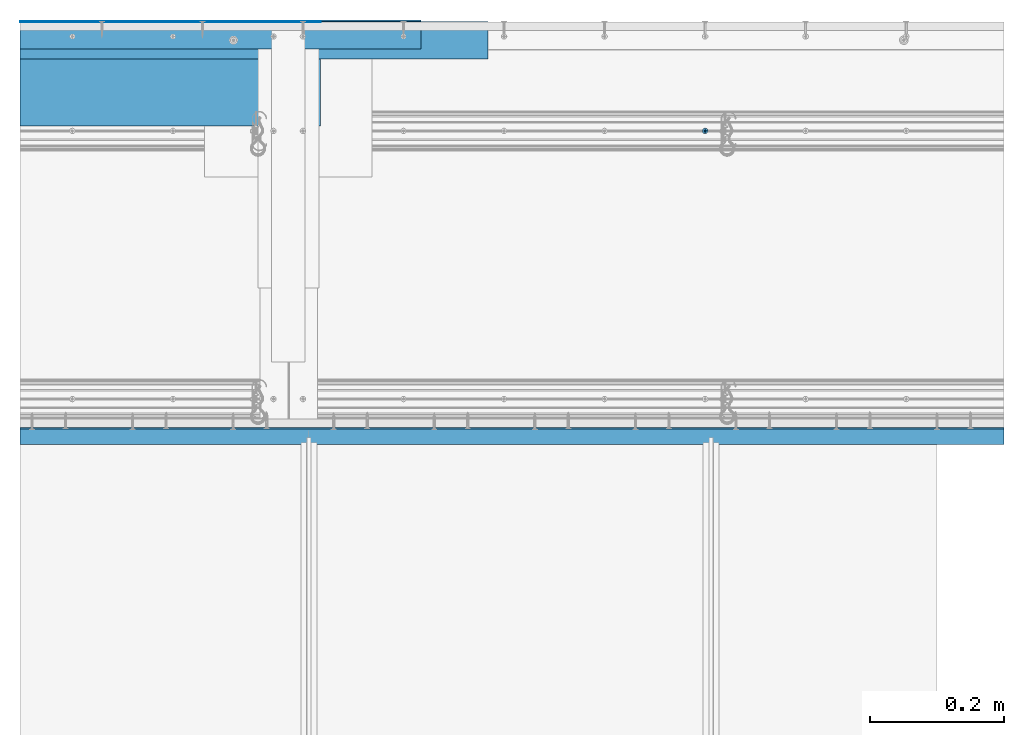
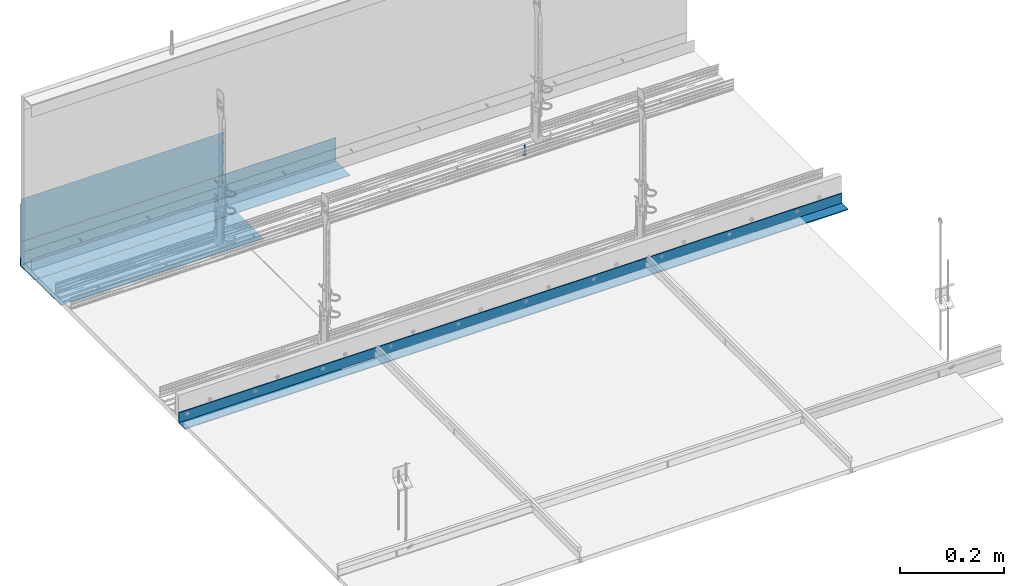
# One storey, part 78 of 79: 5 walls, 1 slab.
"""IFC2X3 building model written with IfcOpenShell, lengths in millimetres."""

from ifc_helpers import new_model, entity, si_unit, converted_unit, direction, frame, origin, origin_with_axes, place, context, project, spatial, faceted_brep, element, save


model = new_model("IFC2X3")

# Units and contexts
model_context = context("Model", 3, precision=1e-05, world=origin(), true_north=direction((0.0, 1.0, 0.0)))
ifc_project = project(units=[si_unit("LENGTHUNIT", "METRE", prefix="MILLI"), si_unit("AREAUNIT", "SQUARE_METRE"), si_unit("VOLUMEUNIT", "CUBIC_METRE"), converted_unit("PLANEANGLEUNIT", "DEGREE", entity("IfcPlaneAngleMeasure", 0.01745), si_unit("PLANEANGLEUNIT", "RADIAN"), dimensions=[0, 0, 0, 0, 0, 0, 0]), si_unit("SOLIDANGLEUNIT", "STERADIAN"), si_unit("MASSUNIT", "GRAM"), si_unit("TIMEUNIT", "SECOND"), si_unit("THERMODYNAMICTEMPERATUREUNIT", "DEGREE_CELSIUS"), si_unit("LUMINOUSINTENSITYUNIT", "LUMEN")], contexts=[model_context])

# Site, building, storey
site_placement = place(None, origin_with_axes())
site = spatial("IfcSite", under=ifc_project, at=site_placement, Name="Default Site", CompositionType="ELEMENT")
building_placement = place(site_placement, origin_with_axes())
building = spatial("IfcBuilding", under=site, at=building_placement, Name="Default Building", CompositionType="ELEMENT")
storey_placement = place(building_placement, origin_with_axes())
storey = spatial("IfcBuildingStorey", under=building, at=storey_placement, Name="Default Building Storey", CompositionType="ELEMENT", Elevation=0.0)

# Slab
slab_placement = place(storey_placement, frame((3284.616074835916, 1516.116634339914, 4371.30616226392), z_axis=(0.0, 1.0, 2.220446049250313e-16), x_axis=(1.0, -1.802054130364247e-31, 8.115730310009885e-16)))
element("IfcSlab", 1, at=slab_placement, inside=storey, Name="Wkręt RIGIPS TN 25", context=model_context, shape_type="Brep", body=[
    faceted_brep([(-136.5890362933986, 3387.475459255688, 554.9298199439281), (-136.4636235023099, 3387.475459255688, 555.0766594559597), (-136.4636235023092, 3370.55807436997, 555.0766594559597), (-136.5890362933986, 3370.55807436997, 554.9298199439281), (-136.9005263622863, 3387.475459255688, 554.7035091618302), (-136.9005263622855, 3370.55807436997, 554.7035091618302), (-137.0789337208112, 3370.55807436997, 554.6296104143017), (-137.078933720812, 3387.475459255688, 554.6296104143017), (-137.2667048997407, 3387.475459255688, 554.5845305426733), (-137.2667048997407, 3370.55807436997, 554.5845305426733), (-137.4592163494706, 3370.55807436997, 554.5693795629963), (-137.4592163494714, 3387.475459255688, 554.5693795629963), (-136.4636235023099, 3387.475459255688, 556.5233405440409), (-136.5890362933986, 3387.475459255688, 556.6701800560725), (-136.5890362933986, 3370.55807436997, 556.6701800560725), (-136.4636235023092, 3370.55807436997, 556.5233405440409), (-138.4548091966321, 3370.55807436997, 556.5233405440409), (-138.3293964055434, 3370.55807436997, 556.6701800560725), (-138.3293964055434, 3387.475459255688, 556.6701800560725), (-138.4548091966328, 3387.475459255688, 556.5233405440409), (-136.7358758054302, 3370.55807436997, 554.8044071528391), (-136.7358758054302, 3387.475459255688, 554.8044071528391), (-138.1825568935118, 3387.475459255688, 556.7955928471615), (-138.1825568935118, 3370.55807436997, 556.7955928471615), (-138.0179063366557, 3370.55807436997, 556.8964908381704), (-138.0179063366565, 3387.475459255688, 556.8964908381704), (-136.3627255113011, 3387.475459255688, 556.3586899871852), (-136.3627255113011, 3370.55807436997, 556.3586899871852), (-136.7358758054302, 3387.475459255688, 556.7955928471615), (-136.7358758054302, 3370.55807436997, 556.7955928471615), (-137.6517277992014, 3387.475459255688, 554.5845305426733), (-137.6517277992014, 3370.55807436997, 554.5845305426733), (-137.83949897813, 3370.55807436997, 554.6296104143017), (-137.8394989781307, 3387.475459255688, 554.6296104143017), (-136.3627255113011, 3387.475459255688, 555.241310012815), (-136.3627255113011, 3370.55807436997, 555.241310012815), (-138.0179063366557, 3370.55807436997, 554.7035091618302), (-138.0179063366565, 3387.475459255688, 554.7035091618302), (-138.6746858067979, 3370.55807436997, 555.6074885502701), (-138.6898367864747, 3370.55807436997, 555.8000000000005), (-138.6898367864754, 3387.475459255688, 555.8000000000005), (-138.6746858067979, 3387.475459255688, 555.6074885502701), (-136.2285959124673, 3387.475459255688, 555.8000000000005), (-136.2437468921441, 3387.475459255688, 555.9925114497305), (-136.2437468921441, 3370.55807436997, 555.9925114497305), (-136.2285959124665, 3370.55807436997, 555.8000000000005), (-138.3293964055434, 3370.55807436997, 554.9298199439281), (-138.4548091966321, 3370.55807436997, 555.0766594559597), (-138.4548091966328, 3387.475459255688, 555.0766594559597), (-138.3293964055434, 3387.475459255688, 554.9298199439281), (-137.83949897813, 3370.55807436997, 556.9703895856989), (-137.8394989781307, 3387.475459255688, 556.9703895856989), (-138.1825568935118, 3370.55807436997, 554.8044071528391), (-138.1825568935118, 3387.475459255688, 554.8044071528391), (-138.5557071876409, 3370.55807436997, 555.241310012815), (-138.6296059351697, 3370.55807436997, 555.4197173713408), (-138.6296059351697, 3387.475459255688, 555.4197173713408), (-138.5557071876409, 3387.475459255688, 555.241310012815), (-136.2888267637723, 3387.475459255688, 555.4197173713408), (-136.2437468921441, 3387.475459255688, 555.6074885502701), (-136.2437468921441, 3370.55807436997, 555.6074885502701), (-136.2888267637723, 3370.55807436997, 555.4197173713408), (-136.2888267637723, 3387.475459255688, 556.1802826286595), (-136.2888267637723, 3370.55807436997, 556.1802826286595), (-137.4592163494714, 3387.475459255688, 557.0306204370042), (-137.4592163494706, 3370.55807436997, 557.0306204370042), (-137.2667048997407, 3370.55807436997, 557.0154694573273), (-137.2667048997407, 3387.475459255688, 557.0154694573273), (-137.0789337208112, 3370.55807436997, 556.9703895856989), (-137.078933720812, 3387.475459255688, 556.9703895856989), (-137.6517277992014, 3387.475459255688, 557.0154694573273), (-137.6517277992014, 3370.55807436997, 557.0154694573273), (-136.9005263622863, 3387.475459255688, 556.8964908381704), (-136.9005263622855, 3370.55807436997, 556.8964908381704), (-138.6296059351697, 3370.55807436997, 556.1802826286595), (-138.5557071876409, 3370.55807436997, 556.3586899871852), (-138.5557071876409, 3387.475459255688, 556.3586899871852), (-138.6296059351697, 3387.475459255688, 556.1802826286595), (-138.6746858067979, 3370.55807436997, 555.9925114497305), (-138.6746858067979, 3387.475459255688, 555.9925114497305), (-141.5377463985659, 3390.556721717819, 555.8000000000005), (-141.5377463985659, 3391.020944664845, 555.8000000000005), (-141.4875329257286, 3391.020944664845, 555.1619773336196), (-141.4875329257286, 3390.556721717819, 555.1619773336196), (-141.338128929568, 3391.020944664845, 554.539664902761), (-141.338128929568, 3390.556721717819, 554.539664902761), (-141.0932132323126, 3391.020944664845, 553.948386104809), (-141.0932132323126, 3390.556721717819, 553.948386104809), (-140.7588164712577, 3391.020944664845, 553.4027001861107), (-140.7588164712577, 3390.556721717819, 553.4027001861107), (-140.3431726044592, 3391.020944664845, 552.9160437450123), (-140.4541727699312, 3390.556721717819, 553.0314907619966), (-140.1080097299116, 3390.556721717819, 552.6986614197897), (-139.8565161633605, 3391.020944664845, 552.5003998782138), (-139.7251262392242, 3390.556721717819, 552.4088262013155), (-139.3108302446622, 3391.020944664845, 552.1660031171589), (-139.3108302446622, 3390.556721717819, 552.1660031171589), (-138.8708651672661, 3390.556721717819, 551.9735584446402), (-138.7195514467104, 3391.020944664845, 551.9210874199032), (-138.4113302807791, 3390.556721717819, 551.8341600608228), (-137.9385961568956, 3390.556721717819, 551.7497404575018), (-138.0972390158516, 3391.020944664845, 551.7716834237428), (-137.4592163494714, 3391.020944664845, 551.7214699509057), (-137.4592163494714, 3390.556721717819, 551.7214699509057), (-136.8211936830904, 3391.020944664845, 551.7716834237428), (-136.8211936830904, 3390.556721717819, 551.7716834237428), (-136.1988812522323, 3391.020944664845, 551.9210874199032), (-136.1988812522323, 3390.556721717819, 551.9210874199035), (-135.6076024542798, 3391.020944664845, 552.1660031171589), (-135.6076024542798, 3390.556721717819, 552.1660031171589), (-135.0619165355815, 3391.020944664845, 552.5003998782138), (-135.0619165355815, 3390.556721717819, 552.5003998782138), (-134.5752600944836, 3391.020944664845, 552.9160437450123), (-134.5752600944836, 3390.556721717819, 552.9160437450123), (-134.1596162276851, 3391.020944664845, 553.4027001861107), (-134.1596162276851, 3390.556721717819, 553.4027001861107), (-133.8252194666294, 3391.020944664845, 553.948386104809), (-133.8252194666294, 3390.556721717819, 553.948386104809), (-133.580303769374, 3391.020944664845, 554.539664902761), (-133.580303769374, 3390.556721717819, 554.539664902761), (-133.4308997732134, 3391.020944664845, 556.438022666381), (-133.4308997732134, 3390.556721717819, 556.438022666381), (-133.3806863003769, 3390.556721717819, 555.8000000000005), (-133.3806863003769, 3391.020944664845, 555.8000000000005), (-133.4308997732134, 3390.556721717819, 555.1619773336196), (-133.4308997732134, 3391.020944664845, 555.1619773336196), (-133.580303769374, 3391.020944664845, 557.0603350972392), (-133.580303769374, 3390.556721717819, 557.0603350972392), (-133.8252194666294, 3391.020944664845, 557.6516138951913), (-133.8252194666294, 3390.556721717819, 557.6516138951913), (-134.1596162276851, 3391.020944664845, 558.1972998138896), (-134.1596162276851, 3390.556721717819, 558.1972998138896), (-134.5752600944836, 3391.020944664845, 558.683956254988), (-134.5752600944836, 3390.556721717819, 558.683956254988), (-135.0619165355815, 3391.020944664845, 559.0996001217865), (-135.0619165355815, 3390.556721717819, 559.0996001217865), (-135.6076024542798, 3391.020944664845, 559.4339968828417), (-135.6076024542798, 3390.556721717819, 559.4339968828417), (-136.1988812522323, 3391.020944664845, 559.6789125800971), (-136.1988812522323, 3390.556721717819, 559.6789125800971), (-136.8211936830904, 3391.020944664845, 559.8283165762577), (-136.8211936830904, 3390.556721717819, 559.8283165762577), (-137.4592163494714, 3391.020944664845, 559.8785300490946), (-137.4592163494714, 3390.556721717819, 559.8785300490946), (-138.0972390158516, 3391.020944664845, 559.8283165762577), (-138.0972390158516, 3390.556721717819, 559.8283165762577), (-138.7195514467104, 3391.020944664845, 559.6789125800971), (-138.7195514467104, 3390.556721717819, 559.6789125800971), (-139.3108302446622, 3391.020944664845, 559.4339968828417), (-139.3108302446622, 3390.556721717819, 559.4339968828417), (-139.8565161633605, 3391.020944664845, 559.0996001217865), (-139.8565161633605, 3390.556721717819, 559.0996001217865), (-140.3431726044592, 3391.020944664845, 558.683956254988), (-140.3431726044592, 3390.556721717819, 558.683956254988), (-140.7588164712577, 3391.020944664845, 558.1972998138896), (-140.7588164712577, 3390.556721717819, 558.1972998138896), (-141.0932132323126, 3391.020944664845, 557.6516138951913), (-141.0932132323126, 3390.556721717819, 557.6516138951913), (-141.338128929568, 3391.020944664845, 557.0603350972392), (-141.338128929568, 3390.556721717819, 557.0603350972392), (-141.4875329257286, 3391.020944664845, 556.438022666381), (-141.4875329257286, 3390.556721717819, 556.438022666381), (-137.8060615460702, 3388.229732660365, 554.5055560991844), (-137.4592163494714, 3388.229732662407, 554.4598930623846), (-138.1292698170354, 3388.229732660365, 554.6394333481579), (-138.4068150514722, 3388.229732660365, 554.8524012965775), (-138.6197830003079, 3388.229732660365, 555.1299465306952), (-138.7536602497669, 3388.229732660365, 555.4531548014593), (-138.7993232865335, 3388.229732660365, 555.7999999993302), (-138.7536602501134, 3388.229732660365, 556.1468451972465), (-138.6197830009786, 3388.229732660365, 556.4700534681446), (-138.4068150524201, 3388.229732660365, 556.7475987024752), (-138.1292698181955, 3388.229732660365, 556.9605666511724), (-137.8060615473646, 3388.229732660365, 557.0944439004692), (-137.4592163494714, 3388.229732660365, 557.1401069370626), (-137.1123711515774, 3388.229732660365, 557.0944439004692), (-136.7891628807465, 3388.229732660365, 556.9605666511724), (-136.5116176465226, 3388.229732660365, 556.7475987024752), (-136.2986496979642, 3388.229732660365, 556.4700534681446), (-136.1647724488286, 3388.229732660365, 556.1468451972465), (-136.1191094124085, 3388.229732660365, 555.7999999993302), (-136.1647724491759, 3388.229732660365, 555.4531548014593), (-136.2986496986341, 3388.229732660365, 555.1299465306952), (-136.5116176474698, 3388.229732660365, 554.8524012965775), (-136.7891628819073, 3388.229732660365, 554.6394333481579), (-137.1123711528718, 3388.229732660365, 554.5055560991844), (-137.4592163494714, 3388.936142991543, 554.1737111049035), (-137.8801308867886, 3388.936142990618, 554.2291255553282), (-138.2723607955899, 3388.936142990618, 554.39159250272), (-138.6091762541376, 3388.936142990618, 554.6500400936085), (-138.8676238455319, 3388.936142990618, 554.9868555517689), (-139.0300907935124, 3388.936142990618, 555.3790854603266), (-139.0855052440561, 3388.936142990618, 555.7999999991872), (-139.0300907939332, 3388.936142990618, 556.2209145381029), (-138.8676238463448, 3388.936142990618, 556.6131444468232), (-138.6091762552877, 3388.936142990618, 556.949959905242), (-138.2723607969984, 3388.936142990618, 557.2084074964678), (-137.8801308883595, 3388.936142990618, 557.3708744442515), (-137.4592163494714, 3388.936142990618, 557.4262888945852), (-137.0383018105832, 3388.936142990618, 557.3708744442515), (-136.6460719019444, 3388.936142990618, 557.2084074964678), (-136.3092564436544, 3388.936142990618, 556.949959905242), (-136.0508088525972, 3388.936142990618, 556.6131444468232), (-135.8883419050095, 3388.936142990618, 556.2209145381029), (-135.8329274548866, 3388.936142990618, 555.7999999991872), (-135.8883419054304, 3388.936142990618, 555.3790854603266), (-136.0508088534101, 3388.936142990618, 554.9868555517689), (-136.3092564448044, 3388.936142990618, 554.6500400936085), (-136.6460719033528, 3388.936142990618, 554.39159250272), (-137.0383018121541, 3388.936142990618, 554.2291255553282), (-137.4592163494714, 3389.553938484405, 553.727343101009), (-137.9956594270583, 3389.553938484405, 553.7979671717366), (-138.4955447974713, 3389.553938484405, 554.0050264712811), (-138.9248060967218, 3389.553938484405, 554.3344102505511), (-139.2541898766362, 3389.553938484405, 554.7636715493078), (-139.46124917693, 3389.553938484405, 555.2635569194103), (-139.5318732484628, 3389.553938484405, 555.7999999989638), (-139.4612491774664, 3389.553938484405, 556.3364430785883), (-139.2541898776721, 3389.553938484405, 556.8363284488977), (-138.9248060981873, 3389.553938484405, 557.2655897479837), (-138.495544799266, 3389.553938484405, 557.5949735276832), (-137.9956594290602, 3389.553938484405, 557.8020328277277), (-137.4592163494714, 3389.553938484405, 557.8726568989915), (-136.9227732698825, 3389.553938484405, 557.8020328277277), (-136.422887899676, 3389.553938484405, 557.5949735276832), (-135.9936266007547, 3389.553938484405, 557.2655897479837), (-135.6642428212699, 3389.553938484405, 556.8363284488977), (-135.4571835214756, 3389.553938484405, 556.3364430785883), (-135.3865594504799, 3389.553938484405, 555.7999999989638), (-135.457183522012, 3389.553938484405, 555.2635569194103), (-135.6642428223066, 3389.553938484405, 554.7636715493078), (-135.9936266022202, 3389.553938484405, 554.3344102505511), (-136.4228879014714, 3389.553938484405, 554.0050264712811), (-136.9227732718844, 3389.553938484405, 553.7979671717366), (-137.4592163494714, 3390.04747944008, 553.1465393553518), (-138.1459824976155, 3390.047479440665, 553.2369538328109), (-138.7859466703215, 3390.047479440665, 553.5020356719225), (-139.3354963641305, 3390.047479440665, 553.9237199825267), (-139.757180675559, 3390.047479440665, 554.4732696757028), (-140.0222625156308, 3390.047479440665, 555.1132338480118), (-140.1126769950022, 3390.047479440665, 555.7999999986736), (-140.0222625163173, 3390.047479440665, 556.4867661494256), (-139.7571806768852, 3390.047479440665, 557.1267303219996), (-139.3354963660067, 3390.047479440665, 557.6762800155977), (-138.7859466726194, 3390.047479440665, 558.0979643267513), (-138.1459825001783, 3390.047479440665, 558.3630461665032), (-137.4592163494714, 3390.047479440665, 558.4534606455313), (-136.7724501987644, 3390.047479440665, 558.3630461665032), (-136.1324860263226, 3390.047479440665, 558.0979643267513), (-135.5829363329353, 3390.047479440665, 557.6762800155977), (-135.1612520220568, 3390.047479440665, 557.1267303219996), (-134.8961701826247, 3390.047479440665, 556.4867661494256), (-134.8057557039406, 3390.047479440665, 555.7999999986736), (-134.8961701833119, 3390.047479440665, 555.1132338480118), (-135.1612520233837, 3390.047479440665, 554.4732696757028), (-135.5829363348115, 3390.047479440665, 553.9237199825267), (-136.1324860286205, 3390.047479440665, 553.5020356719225), (-136.7724502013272, 3390.047479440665, 553.2369538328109), (-137.4592163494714, 3390.388294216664, 552.4648055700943), (-138.3224281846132, 3390.388294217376, 552.5784495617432), (-139.1268135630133, 3390.388294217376, 552.9116368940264), (-139.8175549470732, 3390.388294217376, 553.4416613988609), (-140.3475794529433, 3390.388294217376, 554.1324027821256), (-140.6807667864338, 3390.388294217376, 554.9367881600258), (-140.7944107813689, 3390.388294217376, 555.7999999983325), (-140.6807667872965, 3390.388294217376, 556.6632118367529), (-140.3475794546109, 3390.388294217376, 557.4675972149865), (-139.8175549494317, 3390.388294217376, 558.1583385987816), (-139.1268135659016, 3390.388294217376, 558.6883631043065), (-138.3224281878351, 3390.388294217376, 559.0215504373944), (-137.4592163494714, 3390.388294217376, 559.1351944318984), (-136.5960045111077, 3390.388294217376, 559.0215504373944), (-135.7916191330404, 3390.388294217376, 558.6883631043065), (-135.1008777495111, 3390.388294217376, 558.1583385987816), (-134.5708532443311, 3390.388294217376, 557.4675972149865), (-134.2376659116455, 3390.388294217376, 556.6632118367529), (-134.1240219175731, 3390.388294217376, 555.7999999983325), (-134.2376659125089, 3390.388294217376, 554.9367881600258), (-134.5708532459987, 3390.388294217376, 554.1324027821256), (-135.1008777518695, 3390.388294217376, 553.4416613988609), (-135.7916191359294, 3390.388294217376, 552.9116368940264), (-136.5960045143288, 3390.388294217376, 552.5784495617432), (-137.4592163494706, 3366.021033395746, 555.8000000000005), (-139.9592163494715, 3391.020944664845, 556.3000000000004), (-137.9592163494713, 3391.020944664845, 556.3000000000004), (-139.9592163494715, 3391.020944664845, 555.3000000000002), (-137.9592163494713, 3391.020944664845, 555.3000000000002), (-137.9592163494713, 3391.020944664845, 553.3000000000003), (-136.9592163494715, 3391.020944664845, 553.3000000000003), (-136.9592163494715, 3391.020944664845, 555.3000000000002), (-134.9592163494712, 3391.020944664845, 555.3000000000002), (-134.9592163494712, 3391.020944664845, 556.3000000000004), (-136.9592163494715, 3391.020944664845, 556.3000000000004), (-136.9592163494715, 3391.020944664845, 558.3000000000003), (-137.9592163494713, 3391.020944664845, 558.3000000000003), (-136.9592163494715, 3390.128974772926, 556.3000000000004), (-134.9592163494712, 3390.128974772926, 556.3000000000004), (-134.9592163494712, 3390.128974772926, 555.3000000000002), (-136.9592163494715, 3390.128974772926, 555.3000000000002), (-136.9592163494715, 3390.128974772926, 553.3000000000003), (-137.9592163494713, 3390.128974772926, 553.3000000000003), (-137.9592163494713, 3390.128974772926, 555.3000000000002), (-139.9592163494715, 3390.128974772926, 555.3000000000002), (-139.9592163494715, 3390.128974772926, 556.3000000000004), (-137.9592163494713, 3390.128974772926, 556.3000000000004), (-137.9592163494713, 3390.128974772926, 558.3000000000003), (-136.9592163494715, 3390.128974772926, 558.3000000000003)], [[[0, 1, 2, 3]], [[4, 5, 6, 7]], [[8, 9, 10, 11]], [[12, 13, 14, 15]], [[16, 17, 18, 19]], [[0, 3, 20, 21]], [[22, 23, 24, 25]], [[26, 12, 15, 27]], [[28, 29, 14, 13]], [[30, 31, 32, 33]], [[1, 34, 35, 2]], [[18, 17, 23, 22]], [[7, 6, 9, 8]], [[33, 32, 36, 37]], [[38, 39, 40, 41]], [[42, 43, 44, 45]], [[46, 47, 48, 49]], [[25, 24, 50, 51]], [[37, 36, 52, 53]], [[54, 55, 56, 57]], [[53, 52, 46, 49]], [[47, 54, 57, 48]], [[58, 59, 60, 61]], [[59, 42, 45, 60]], [[43, 62, 63, 44]], [[64, 65, 66, 67]], [[67, 66, 68, 69]], [[55, 38, 41, 56]], [[70, 71, 65, 64]], [[72, 73, 29, 28]], [[74, 75, 76, 77]], [[69, 68, 73, 72]], [[39, 78, 79, 40]], [[75, 16, 19, 76]], [[62, 26, 27, 63]], [[11, 10, 31, 30]], [[21, 20, 5, 4]], [[34, 58, 61, 35]], [[51, 50, 71, 70]], [[78, 74, 77, 79]], [[80, 81, 82, 83]], [[84, 85, 83, 82]], [[86, 87, 85, 84]], [[87, 86, 88, 89]], [[88, 90, 89]], [[90, 91, 89]], [[92, 91, 93]], [[91, 90, 93]], [[93, 94, 92]], [[93, 95, 94]], [[95, 96, 94]], [[97, 96, 98]], [[96, 95, 98]], [[98, 99, 97]], [[100, 99, 101]], [[99, 98, 101]], [[101, 102, 100]], [[102, 103, 100]], [[103, 102, 104, 105]], [[106, 107, 105, 104]], [[108, 109, 107, 106]], [[109, 108, 110, 111]], [[112, 113, 111, 110]], [[113, 112, 114, 115]], [[116, 117, 115, 114]], [[118, 119, 117, 116]], [[120, 121, 122, 123]], [[123, 122, 124, 125]], [[119, 118, 125, 124]], [[126, 127, 121, 120]], [[128, 129, 127, 126]], [[129, 128, 130, 131]], [[132, 133, 131, 130]], [[133, 132, 134, 135]], [[136, 137, 135, 134]], [[138, 139, 137, 136]], [[139, 138, 140, 141]], [[142, 143, 141, 140]], [[143, 142, 144, 145]], [[146, 147, 145, 144]], [[148, 149, 147, 146]], [[149, 148, 150, 151]], [[152, 153, 151, 150]], [[153, 152, 154, 155]], [[156, 157, 155, 154]], [[158, 159, 157, 156]], [[159, 158, 160, 161]], [[81, 80, 161, 160]], [[162, 11, 30]], [[162, 163, 11]], [[30, 33, 162]], [[162, 33, 164]], [[37, 164, 33]], [[164, 37, 53]], [[53, 165, 164]], [[53, 49, 165]], [[166, 49, 48]], [[166, 165, 49]], [[48, 57, 166]], [[166, 57, 167]], [[56, 167, 57]], [[167, 56, 41]], [[41, 168, 167]], [[41, 40, 168]], [[169, 40, 79]], [[169, 168, 40]], [[79, 77, 169]], [[169, 77, 170]], [[76, 170, 77]], [[170, 76, 19]], [[19, 171, 170]], [[19, 18, 171]], [[172, 18, 22]], [[172, 171, 18]], [[22, 25, 172]], [[172, 25, 173]], [[51, 173, 25]], [[173, 51, 70]], [[70, 174, 173]], [[70, 64, 174]], [[175, 64, 67]], [[175, 174, 64]], [[67, 69, 175]], [[175, 69, 176]], [[72, 176, 69]], [[176, 72, 28]], [[28, 177, 176]], [[28, 13, 177]], [[178, 13, 12]], [[178, 177, 13]], [[12, 26, 178]], [[178, 26, 179]], [[62, 179, 26]], [[179, 62, 43]], [[43, 180, 179]], [[43, 42, 180]], [[181, 42, 59]], [[181, 180, 42]], [[59, 58, 181]], [[181, 58, 182]], [[34, 182, 58]], [[182, 34, 1]], [[1, 183, 182]], [[1, 0, 183]], [[184, 0, 21]], [[184, 183, 0]], [[21, 4, 184]], [[184, 4, 185]], [[7, 185, 4]], [[185, 7, 8]], [[8, 163, 185]], [[8, 11, 163]], [[186, 163, 187]], [[162, 187, 163]], [[164, 188, 187, 162]], [[165, 189, 188, 164]], [[166, 190, 189, 165]], [[167, 191, 190, 166]], [[168, 192, 191, 167]], [[169, 193, 192, 168]], [[170, 194, 193, 169]], [[171, 195, 194, 170]], [[172, 196, 195, 171]], [[173, 197, 196, 172]], [[174, 198, 197, 173]], [[175, 199, 198, 174]], [[176, 200, 199, 175]], [[177, 201, 200, 176]], [[178, 202, 201, 177]], [[179, 203, 202, 178]], [[180, 204, 203, 179]], [[181, 205, 204, 180]], [[182, 206, 205, 181]], [[183, 207, 206, 182]], [[184, 208, 207, 183]], [[185, 209, 208, 184]], [[185, 163, 209]], [[186, 209, 163]], [[210, 186, 211]], [[187, 211, 186]], [[188, 212, 211, 187]], [[189, 213, 212, 188]], [[190, 214, 213, 189]], [[191, 215, 214, 190]], [[192, 216, 215, 191]], [[193, 217, 216, 192]], [[194, 218, 217, 193]], [[195, 219, 218, 194]], [[196, 220, 219, 195]], [[197, 221, 220, 196]], [[198, 222, 221, 197]], [[199, 223, 222, 198]], [[200, 224, 223, 199]], [[201, 225, 224, 200]], [[202, 226, 225, 201]], [[203, 227, 226, 202]], [[204, 228, 227, 203]], [[205, 229, 228, 204]], [[206, 230, 229, 205]], [[207, 231, 230, 206]], [[208, 232, 231, 207]], [[209, 233, 232, 208]], [[209, 186, 233]], [[210, 233, 186]], [[234, 210, 235]], [[211, 235, 210]], [[212, 236, 235, 211]], [[213, 237, 236, 212]], [[214, 238, 237, 213]], [[215, 239, 238, 214]], [[216, 240, 239, 215]], [[217, 241, 240, 216]], [[218, 242, 241, 217]], [[219, 243, 242, 218]], [[220, 244, 243, 219]], [[221, 245, 244, 220]], [[222, 246, 245, 221]], [[223, 247, 246, 222]], [[224, 248, 247, 223]], [[225, 249, 248, 224]], [[226, 250, 249, 225]], [[227, 251, 250, 226]], [[228, 252, 251, 227]], [[229, 253, 252, 228]], [[230, 254, 253, 229]], [[231, 255, 254, 230]], [[232, 256, 255, 231]], [[233, 257, 256, 232]], [[233, 210, 257]], [[234, 257, 210]], [[258, 99, 100]], [[258, 259, 99]], [[100, 103, 258]], [[258, 234, 259]], [[235, 259, 234]], [[259, 96, 97]], [[259, 260, 96]], [[97, 99, 259]], [[236, 260, 259, 235]], [[261, 91, 92]], [[260, 92, 94]], [[260, 261, 92]], [[94, 96, 260]], [[237, 261, 260, 236]], [[262, 87, 89]], [[89, 261, 262]], [[89, 91, 261]], [[238, 262, 261, 237]], [[85, 87, 263]], [[262, 263, 87]], [[239, 263, 262, 238]], [[263, 80, 83]], [[263, 264, 80]], [[83, 85, 263]], [[240, 264, 263, 239]], [[265, 159, 161]], [[161, 264, 265]], [[161, 80, 264]], [[241, 265, 264, 240]], [[265, 266, 157, 159]], [[242, 266, 265, 241]], [[266, 153, 155]], [[266, 267, 153]], [[155, 157, 266]], [[243, 267, 266, 242]], [[268, 149, 151]], [[151, 267, 268]], [[151, 153, 267]], [[244, 268, 267, 243]], [[268, 269, 147, 149]], [[245, 269, 268, 244]], [[269, 143, 145]], [[269, 270, 143]], [[145, 147, 269]], [[246, 270, 269, 245]], [[271, 139, 141]], [[141, 270, 271]], [[141, 143, 270]], [[247, 271, 270, 246]], [[271, 272, 137, 139]], [[248, 272, 271, 247]], [[272, 133, 135]], [[272, 273, 133]], [[135, 137, 272]], [[249, 273, 272, 248]], [[274, 129, 131]], [[131, 273, 274]], [[131, 133, 273]], [[250, 274, 273, 249]], [[274, 275, 127, 129]], [[251, 275, 274, 250]], [[275, 122, 121]], [[275, 276, 122]], [[121, 127, 275]], [[252, 276, 275, 251]], [[277, 119, 124]], [[124, 276, 277]], [[124, 122, 276]], [[253, 277, 276, 252]], [[117, 119, 278]], [[277, 278, 119]], [[254, 278, 277, 253]], [[278, 113, 115]], [[278, 279, 113]], [[115, 117, 278]], [[255, 279, 278, 254]], [[280, 109, 111]], [[111, 279, 280]], [[111, 113, 279]], [[256, 280, 279, 255]], [[107, 109, 281]], [[280, 281, 109]], [[257, 281, 280, 256]], [[257, 234, 281]], [[258, 281, 234]], [[281, 103, 105]], [[281, 258, 103]], [[105, 107, 281]], [[38, 55, 282]], [[282, 39, 38]], [[55, 54, 282]], [[47, 46, 282]], [[282, 54, 47]], [[52, 36, 282]], [[282, 46, 52]], [[36, 32, 282]], [[31, 10, 282]], [[282, 32, 31]], [[9, 6, 282]], [[282, 10, 9]], [[6, 5, 282]], [[20, 3, 282]], [[282, 5, 20]], [[2, 35, 282]], [[282, 3, 2]], [[35, 61, 282]], [[60, 45, 282]], [[282, 61, 60]], [[44, 63, 282]], [[282, 45, 44]], [[63, 27, 282]], [[15, 14, 282]], [[282, 27, 15]], [[29, 73, 282]], [[282, 14, 29]], [[73, 68, 282]], [[66, 65, 282]], [[282, 68, 66]], [[71, 50, 282]], [[282, 65, 71]], [[50, 24, 282]], [[23, 17, 282]], [[282, 24, 23]], [[16, 75, 282]], [[282, 17, 16]], [[75, 74, 282]], [[78, 39, 282]], [[282, 74, 78]], [[283, 156, 154, 284]], [[283, 285, 286, 287, 288, 289, 290, 291, 292, 293, 294, 284, 154, 152, 150, 148, 146, 144, 142, 140, 138, 136, 134, 132, 130, 128, 126, 120, 123, 125, 118, 116, 114, 112, 110, 108, 106, 104, 102, 101, 98, 95, 93, 90, 88, 86, 84, 82, 81, 160, 158, 156]], [[295, 296, 297, 298, 299, 300, 301, 302, 303, 304, 305, 306]], [[297, 290, 289, 298]], [[296, 291, 290, 297]], [[295, 292, 291, 296]], [[306, 293, 292, 295]], [[305, 294, 293, 306]], [[304, 284, 294, 305]], [[303, 283, 284, 304]], [[302, 285, 283, 303]], [[301, 286, 285, 302]], [[300, 287, 286, 301]], [[299, 288, 287, 300]], [[298, 289, 288, 299]]]),
])

# Walls
wall_1_placement = place(storey_placement, frame((2125.025133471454, 1604.397765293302, 1004.285217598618), z_axis=(0.0, 1.0, -2.775557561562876e-16), x_axis=(1.0, 0.0, 0.0)))
element("IfcWall", 2, at=wall_1_placement, inside=storey, Name="Kątownik", context=model_context, shape_type="Brep", body=[
    faceted_brep([(0.0, 25.00000000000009, 0.0), (0.0, 25.00000000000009, 24.99999999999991), (1468.015484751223, 24.99999999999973, 24.99999999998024), (1468.015484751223, 24.99999999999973, -1.967208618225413e-11), (0.0, 0.0, 24.99999999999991), (1468.015484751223, -3.609557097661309e-13, 24.99999999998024), (-4.71681005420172e-13, 0.0, 22.99999999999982), (1468.015484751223, -3.609557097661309e-13, 22.99999999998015), (-4.71681005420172e-13, 23.00000000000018, 22.99999999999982), (1468.015484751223, 22.99999999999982, 22.99999999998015), (-1.415043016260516e-12, 23.00000000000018, 0.0), (1468.015484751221, 22.99999999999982, -1.967208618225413e-11)], [[[0, 1, 2, 3]], [[1, 4, 5, 2]], [[4, 6, 7, 5]], [[6, 8, 9, 7]], [[8, 10, 11, 9]], [[10, 0, 3, 11]], [[11, 3, 2, 5, 7, 9]], [[0, 10, 8, 6, 4, 1]]]),
])
wall_2_placement = place(storey_placement, frame((2723.375136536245, 2155.416634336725, 980.2852176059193), z_axis=(1.0, -3.558708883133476e-12, -1.615587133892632e-27), x_axis=(3.558708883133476e-12, 1.0, 6.279698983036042e-16)))
element("IfcWall", 3, at=wall_2_placement, inside=storey, Name="Dedykowana masa szpachlowa Rigips - konstrukcyjna", context=model_context, shape_type="Brep", body=[
    faceted_brep([(23.99999999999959, 9.79453318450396e-10, 100.0000000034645), (79.99999999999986, 9.79453318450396e-10, 100.0000000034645), (80.0000000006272, 56.00000000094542, 100.000000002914), (79.0000000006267, 56.00000000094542, 100.0000000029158), (79.0000000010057, 1.000000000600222, 100.0000000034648), (23.99999999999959, 1.000000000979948, 100.0000000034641), (79.0000000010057, 0.9999999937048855, -598.3500030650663), (23.99999999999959, 0.9999999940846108, -598.3500030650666), (79.0000000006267, 55.99999999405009, -598.3500030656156), (80.0000000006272, 55.99999999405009, -598.3500030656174), (79.99999999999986, -5.915883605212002e-09, -598.3500030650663), (23.99999999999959, -5.915883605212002e-09, -598.3500030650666)], [[[0, 1, 2, 3, 4, 5]], [[5, 4, 6, 7]], [[4, 3, 8, 6]], [[3, 2, 9, 8]], [[10, 11, 7, 6, 8, 9]], [[2, 1, 10, 9]], [[1, 0, 11, 10]], [[0, 5, 7, 11]]]),
])
wall_3_placement = place(storey_placement, frame((2723.375136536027, 2079.401739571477, 978.285217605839), z_axis=(1.0, -3.558708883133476e-12, -1.615587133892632e-27), x_axis=(3.558708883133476e-12, 1.0, 3.614282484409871e-13)))
element("IfcWall", 4, at=wall_3_placement, inside=storey, Name="Dedykowana masa szpachlowa Rigips - wykończeniowa", context=model_context, shape_type="Brep", body=[
    faceted_brep([(9.008863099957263e-13, 3.000000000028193, -598.3500030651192), (100.0000000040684, 3.000000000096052, -598.3500030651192), (100.0000000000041, 2.000000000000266, -598.3500030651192), (100.0000000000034, 1.82721618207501, -598.3500030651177), (125.0248246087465, 1.533729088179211, -149.9999999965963), (1.352080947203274e-12, 3.000000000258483, -149.9999999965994), (125.0248246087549, 1.533729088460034, -598.3500030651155), (114.9999999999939, 2.000000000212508, -149.9999999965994), (100.0000000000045, 2.000000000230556, -149.9999999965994), (100.0000000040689, 3.000000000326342, -149.9999999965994)], [[[0, 1, 2, 3]], [[4, 5, 0, 3, 6]], [[4, 7, 8, 9, 5]], [[5, 9, 1, 0]], [[9, 8, 2, 1]]]),
])
wall_4_placement = place(storey_placement, frame((2723.37513653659, 2237.416634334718, 1136.285217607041), z_axis=(1.0, -3.558708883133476e-12, -1.615587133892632e-27), x_axis=(1.285076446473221e-24, 3.615614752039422e-13, -1.0)))
element("IfcWall", 5, at=wall_4_placement, inside=storey, Name="Dedykowana masa szpachlowa Rigips - wykończeniowa", context=model_context, shape_type="Brep", body=[
    faceted_brep([(9.023892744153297e-13, -3.000000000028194, -598.3500030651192), (100.0000000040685, -3.000000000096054, -598.3500030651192), (100.0000000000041, -2.000000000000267, -598.3500030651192), (100.0000000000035, -1.827216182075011, -598.3500030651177), (125.0248246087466, -1.533729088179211, -149.9999999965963), (1.353583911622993e-12, -3.000000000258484, -149.9999999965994), (125.0248246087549, -1.533729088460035, -598.3500030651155), (114.9999999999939, -2.000000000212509, -149.9999999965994), (100.0000000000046, -2.000000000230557, -149.9999999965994), (100.0000000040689, -3.000000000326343, -149.9999999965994)], [[[0, 1, 2, 3]], [[4, 5, 0, 3, 6]], [[4, 7, 8, 9, 5]], [[5, 9, 1, 0]], [[9, 8, 2, 1]]]),
])
wall_5_placement = place(storey_placement, frame((2925.026715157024, 2194.416634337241, 978.2852176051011), z_axis=(1.0, -3.558708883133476e-12, -1.615587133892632e-27), x_axis=(3.558708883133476e-12, 1.0, 6.279698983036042e-16)))
element("IfcWall", 6, at=wall_5_placement, inside=storey, Name="Taśma narożnikowa HABITO® NO-COAT®", context=model_context, shape_type="Brep", body=[
    faceted_brep([(40.99999999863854, 43.00000000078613, -201.6515786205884), (42.99999999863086, 7.829129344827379e-10, -201.6515786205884), (42.99999999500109, 3.099887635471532e-09, -800.0015816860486), (40.99999999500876, 43.0000000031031, -800.0015816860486), (-1.233746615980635e-09, 2.00000000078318, -201.6515786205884), (-4.863517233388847e-09, 2.000000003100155, -800.0015816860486), (40.99999999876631, 2.000000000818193, -201.6515786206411), (40.99999999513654, 2.000000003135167, -800.0015816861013)], [[[0, 1, 2, 3]], [[1, 4, 5, 2]], [[6, 4, 1, 0]], [[4, 6, 7, 5]], [[6, 0, 3, 7]], [[7, 3, 2, 5]]]),
])

save(model, "model.ifc")
